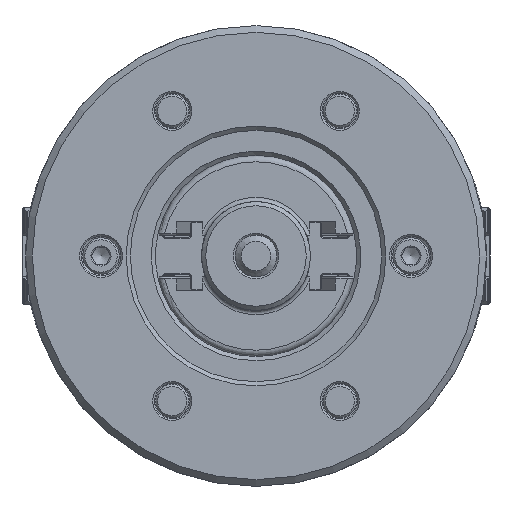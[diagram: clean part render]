
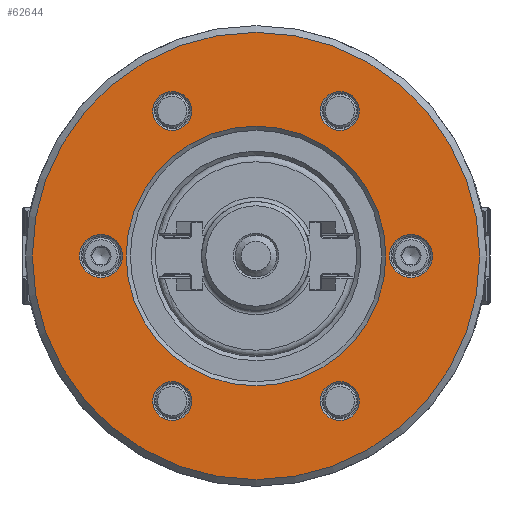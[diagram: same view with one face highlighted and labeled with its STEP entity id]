
A CAD part, left-side view. The second image highlights one B-rep face of the part: STEP entity #62644.
In plain terms, the highlighted planar face has unit normal (-1, 0, 0).
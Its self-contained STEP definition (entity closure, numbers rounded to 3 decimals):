
#183 = DIRECTION ( 'NONE',  ( 1., 0., 0. ) ) ;
#447 = DIRECTION ( 'NONE',  ( 1., 0., 0. ) ) ;
#458 = DIRECTION ( 'NONE',  ( 0., 0., -1. ) ) ;
#822 = CIRCLE ( 'NONE', #25931, 4.65 ) ;
#1222 = DIRECTION ( 'NONE',  ( 0., 0., -1. ) ) ;
#1667 = ORIENTED_EDGE ( 'NONE', *, *, #57219, .F. ) ;
#2676 = AXIS2_PLACEMENT_3D ( 'NONE', #47271, #447, #1222 ) ;
#4032 = ORIENTED_EDGE ( 'NONE', *, *, #59557, .T. ) ;
#4551 = EDGE_CURVE ( 'NONE', #53497, #53497, #21370, .T. ) ;
#6657 = FACE_BOUND ( 'NONE', #19780, .T. ) ;
#8163 = AXIS2_PLACEMENT_3D ( 'NONE', #22392, #64370, #13160 ) ;
#9143 = DIRECTION ( 'NONE',  ( 1., 0., 0. ) ) ;
#9328 = VERTEX_POINT ( 'NONE', #65695 ) ;
#9471 = ORIENTED_EDGE ( 'NONE', *, *, #62733, .F. ) ;
#10713 = DIRECTION ( 'NONE',  ( 1., 0., 0. ) ) ;
#10930 = CARTESIAN_POINT ( 'NONE',  ( -52., 0., -31. ) ) ;
#11672 = DIRECTION ( 'NONE',  ( 0., 0., 1. ) ) ;
#11961 = VERTEX_POINT ( 'NONE', #10930 ) ;
#12539 = EDGE_LOOP ( 'NONE', ( #55808 ) ) ;
#12705 = ORIENTED_EDGE ( 'NONE', *, *, #47160, .F. ) ;
#13160 = DIRECTION ( 'NONE',  ( 0., 0., 1. ) ) ;
#14254 = DIRECTION ( 'NONE',  ( 0., 0., -1. ) ) ;
#14741 = AXIS2_PLACEMENT_3D ( 'NONE', #63683, #183, #16930 ) ;
#15350 = CIRCLE ( 'NONE', #58940, 53.4 ) ;
#16132 = DIRECTION ( 'NONE',  ( -1., 0., 0. ) ) ;
#16584 = FACE_BOUND ( 'NONE', #12539, .T. ) ;
#16742 = VERTEX_POINT ( 'NONE', #52594 ) ;
#16930 = DIRECTION ( 'NONE',  ( 0., 0., -1. ) ) ;
#18104 = CARTESIAN_POINT ( 'NONE',  ( -52., 0., 0. ) ) ;
#19733 = CARTESIAN_POINT ( 'NONE',  ( -52., -20., 34.641 ) ) ;
#19780 = EDGE_LOOP ( 'NONE', ( #41935 ) ) ;
#19919 = EDGE_CURVE ( 'NONE', #30946, #30946, #32668, .T. ) ;
#20695 = VERTEX_POINT ( 'NONE', #56149 ) ;
#21370 = CIRCLE ( 'NONE', #55098, 4.65 ) ;
#22217 = CARTESIAN_POINT ( 'NONE',  ( -52., -20., -39.291 ) ) ;
#22392 = CARTESIAN_POINT ( 'NONE',  ( -52., 37., 0. ) ) ;
#23083 = EDGE_CURVE ( 'NONE', #20695, #20695, #822, .T. ) ;
#24067 = EDGE_LOOP ( 'NONE', ( #65851 ) ) ;
#24813 = CARTESIAN_POINT ( 'NONE',  ( -52., 20., 29.991 ) ) ;
#25931 = AXIS2_PLACEMENT_3D ( 'NONE', #19733, #29998, #14254 ) ;
#26333 = DIRECTION ( 'NONE',  ( 1., 0., 0. ) ) ;
#26852 = FACE_BOUND ( 'NONE', #26948, .T. ) ;
#26948 = EDGE_LOOP ( 'NONE', ( #12705 ) ) ;
#27189 = FACE_OUTER_BOUND ( 'NONE', #63348, .T. ) ;
#27682 = VERTEX_POINT ( 'NONE', #43383 ) ;
#28284 = AXIS2_PLACEMENT_3D ( 'NONE', #67287, #26333, #52604 ) ;
#29998 = DIRECTION ( 'NONE',  ( 1., 0., 0. ) ) ;
#30946 = VERTEX_POINT ( 'NONE', #24813 ) ;
#32668 = CIRCLE ( 'NONE', #43590, 4.65 ) ;
#33370 = CARTESIAN_POINT ( 'NONE',  ( -52., 20., -39.291 ) ) ;
#34407 = EDGE_LOOP ( 'NONE', ( #9471 ) ) ;
#36693 = CARTESIAN_POINT ( 'NONE',  ( -52., 20., 34.641 ) ) ;
#37242 = VERTEX_POINT ( 'NONE', #22217 ) ;
#41276 = CARTESIAN_POINT ( 'NONE',  ( -52., 20., -34.641 ) ) ;
#41935 = ORIENTED_EDGE ( 'NONE', *, *, #51230, .T. ) ;
#42095 = CARTESIAN_POINT ( 'NONE',  ( -52., -37., 0. ) ) ;
#42218 = FACE_BOUND ( 'NONE', #24067, .T. ) ;
#42556 = FACE_BOUND ( 'NONE', #62826, .T. ) ;
#43383 = CARTESIAN_POINT ( 'NONE',  ( -52., 37., 5.15 ) ) ;
#43590 = AXIS2_PLACEMENT_3D ( 'NONE', #36693, #10713, #458 ) ;
#45272 = CIRCLE ( 'NONE', #2676, 31. ) ;
#45738 = CIRCLE ( 'NONE', #28284, 4.65 ) ;
#46676 = PLANE ( 'NONE',  #14741 ) ;
#47160 = EDGE_CURVE ( 'NONE', #9328, #9328, #59159, .T. ) ;
#47271 = CARTESIAN_POINT ( 'NONE',  ( -52., 0., 0. ) ) ;
#51230 = EDGE_CURVE ( 'NONE', #11961, #11961, #45272, .T. ) ;
#52594 = CARTESIAN_POINT ( 'NONE',  ( -52., 0., -53.4 ) ) ;
#52604 = DIRECTION ( 'NONE',  ( 0., 0., -1. ) ) ;
#53132 = EDGE_LOOP ( 'NONE', ( #4032 ) ) ;
#53453 = FACE_BOUND ( 'NONE', #34407, .T. ) ;
#53497 = VERTEX_POINT ( 'NONE', #33370 ) ;
#55098 = AXIS2_PLACEMENT_3D ( 'NONE', #41276, #9143, #66510 ) ;
#55808 = ORIENTED_EDGE ( 'NONE', *, *, #23083, .T. ) ;
#55914 = AXIS2_PLACEMENT_3D ( 'NONE', #42095, #16132, #11672 ) ;
#56108 = CIRCLE ( 'NONE', #8163, 5.15 ) ;
#56149 = CARTESIAN_POINT ( 'NONE',  ( -52., -20., 29.991 ) ) ;
#57190 = FACE_BOUND ( 'NONE', #53132, .T. ) ;
#57219 = EDGE_CURVE ( 'NONE', #16742, #16742, #15350, .T. ) ;
#58940 = AXIS2_PLACEMENT_3D ( 'NONE', #18104, #64170, #59690 ) ;
#58967 = ORIENTED_EDGE ( 'NONE', *, *, #4551, .T. ) ;
#59159 = CIRCLE ( 'NONE', #55914, 5.15 ) ;
#59557 = EDGE_CURVE ( 'NONE', #37242, #37242, #45738, .T. ) ;
#59690 = DIRECTION ( 'NONE',  ( 0., 0., -1. ) ) ;
#62644 = ADVANCED_FACE ( 'NONE', ( #26852, #42556, #42218, #53453, #57190, #16584, #27189, #6657 ), #46676, .F. ) ;
#62733 = EDGE_CURVE ( 'NONE', #27682, #27682, #56108, .T. ) ;
#62826 = EDGE_LOOP ( 'NONE', ( #58967 ) ) ;
#63348 = EDGE_LOOP ( 'NONE', ( #1667 ) ) ;
#63683 = CARTESIAN_POINT ( 'NONE',  ( -52., -53.4, 0. ) ) ;
#64170 = DIRECTION ( 'NONE',  ( 1., 0., 0. ) ) ;
#64370 = DIRECTION ( 'NONE',  ( -1., 0., 0. ) ) ;
#65695 = CARTESIAN_POINT ( 'NONE',  ( -52., -37., 5.15 ) ) ;
#65851 = ORIENTED_EDGE ( 'NONE', *, *, #19919, .T. ) ;
#66510 = DIRECTION ( 'NONE',  ( 0., 0., -1. ) ) ;
#67287 = CARTESIAN_POINT ( 'NONE',  ( -52., -20., -34.641 ) ) ;
